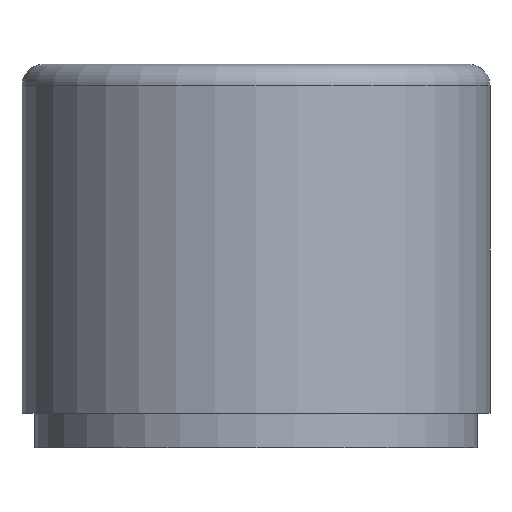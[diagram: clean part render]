
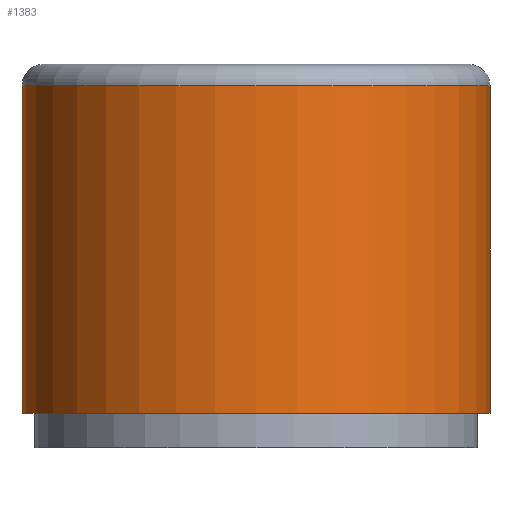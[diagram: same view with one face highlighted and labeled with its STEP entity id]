
A CAD part, front view. The second image highlights one B-rep face of the part: STEP entity #1383.
In plain terms, the highlighted cylindrical face has radius 54 mm (diameter 108 mm), a full revolution.
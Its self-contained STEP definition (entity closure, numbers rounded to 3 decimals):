
#81=CYLINDRICAL_SURFACE('',#1512,54.);
#155=LINE('',#2152,#211);
#211=VECTOR('',#1740,54.);
#297=FACE_OUTER_BOUND('',#395,.T.);
#395=EDGE_LOOP('',(#973,#974,#975,#976));
#486=CIRCLE('',#1491,54.);
#497=CIRCLE('',#1510,54.);
#586=VERTEX_POINT('',#2116);
#596=VERTEX_POINT('',#2148);
#722=EDGE_CURVE('',#586,#586,#486,.T.);
#736=EDGE_CURVE('',#596,#596,#497,.T.);
#738=EDGE_CURVE('',#586,#596,#155,.T.);
#973=ORIENTED_EDGE('',*,*,#722,.F.);
#974=ORIENTED_EDGE('',*,*,#738,.T.);
#975=ORIENTED_EDGE('',*,*,#736,.T.);
#976=ORIENTED_EDGE('',*,*,#738,.F.);
#1383=ADVANCED_FACE('',(#297),#81,.T.);
#1491=AXIS2_PLACEMENT_3D('',#2117,#1693,#1694);
#1510=AXIS2_PLACEMENT_3D('',#2149,#1734,#1735);
#1512=AXIS2_PLACEMENT_3D('',#2151,#1738,#1739);
#1693=DIRECTION('center_axis',(0.,0.,
-1.));
#1694=DIRECTION('ref_axis',(-1.,0.,0.));
#1734=DIRECTION('center_axis',(0.,0.,
-1.));
#1735=DIRECTION('ref_axis',(-1.,0.,0.));
#1738=DIRECTION('center_axis',(0.,0.,
-1.));
#1739=DIRECTION('ref_axis',(-1.,0.,0.));
#1740=DIRECTION('',(0.,0.,1.));
#2116=CARTESIAN_POINT('',(54.,0.,-29.8));
#2117=CARTESIAN_POINT('Origin',(0.,0.,
-29.8));
#2148=CARTESIAN_POINT('',(54.,0.,45.7));
#2149=CARTESIAN_POINT('Origin',(0.,0.,
45.7));
#2151=CARTESIAN_POINT('Origin',(0.,0.,
7.95));
#2152=CARTESIAN_POINT('',(54.,0.,7.95));
